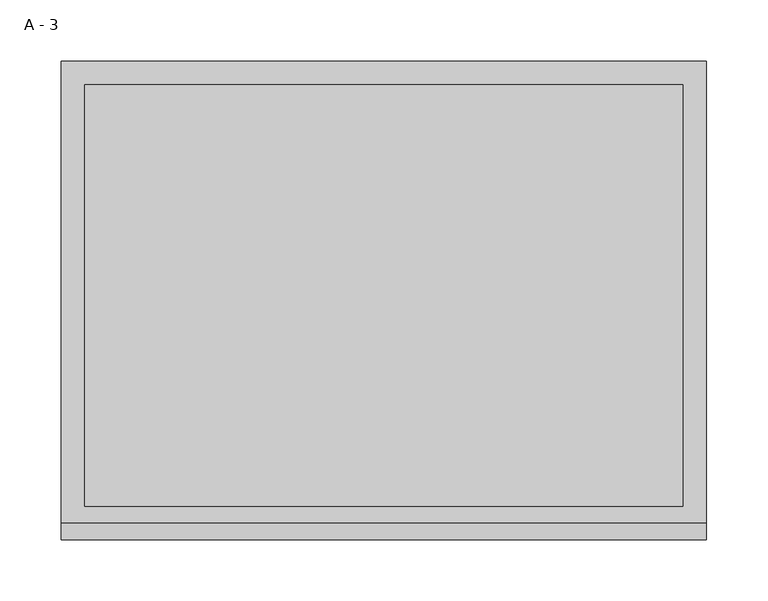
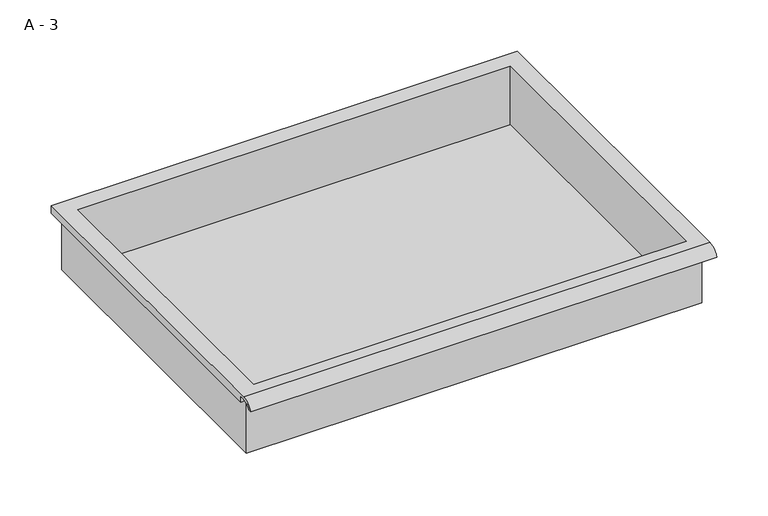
"""IFC4 building model written with IfcOpenShell, lengths in millimetres: furniture geometry, HermanMiller_CoStruc_CO207_Drawer : A - 3."""

from ifc_helpers import new_model, si_unit, frame, origin, place, context, project, spatial, polyline, circle_curve, source, transform, mapped, element, save
from ifc_brep_helpers import plane_surface, cylinder_surface, revolved_surface, advanced_brep


def a_3_f6285bb9(model_context):
    return source(origin(), model_context, "Body", "AdvancedBrep", [
        advanced_brep(
        [(-257.1076517, -176.2125, 1149.35), (257.2423483, -176.2125, 1149.35), (257.2423483, -176.2125, 1212.85), (263.5923483, -176.2125, 1212.85), (263.5923483, -176.2125, 1219.1571341), (-263.4576517, -176.2125, 1219.1571341), (-263.4576517, -176.2125, 1212.85), (-257.1076517, -176.2125, 1212.85), (257.2423483, 185.7375, 1149.35), (-257.1076517, 185.7375, 1149.35), (-257.1076517, 185.7375, 1212.85), (257.2423483, 185.7375, 1212.85), (263.5923483, -181.6070544, 1222.375), (263.5923483, 195.2625, 1222.375), (-263.4576517, 195.2625, 1222.375), (-263.4576517, -181.6070544, 1222.375), (244.5423483, -168.275, 1222.375), (-244.4076517, -168.275, 1222.375), (-244.4076517, 176.2125, 1222.375), (244.5423483, 176.2125, 1222.375), (263.5923483, -195.2625, 1212.85), (263.5923483, -191.8280601, 1212.85), (263.5923483, -180.4714815, 1219.1571341), (263.5923483, 195.2625, 1212.85), (-263.4576517, 195.2625, 1212.85), (-263.4576517, -180.4714815, 1219.1571341), (-263.4576517, -191.8280601, 1212.85), (-263.4576517, -195.2625, 1212.85), (-244.4076517, -168.275, 1152.3761719), (244.5423483, -168.275, 1152.3761719), (244.5423483, 176.2125, 1152.3761719), (-244.4076517, 176.2125, 1152.3761719)],
        [
            (0, 1),
            (1, 2),
            (2, 3),
            (3, 4),
            (4, 5),
            (5, 6),
            (6, 7),
            (7, 0),
            (8, 9),
            (9, 10),
            (10, 11),
            (11, 8),
            (0, 9),
            (8, 1),
            (11, 2),
            (12, 13),
            (13, 14),
            (14, 15),
            (15, 12),
            (16, 17),
            (17, 18),
            (18, 19),
            (19, 16),
            (7, 10),
            (12, 20, circle_curve(frame((263.5923483, -181.6070544, 1207.8239859), z_axis=(1.0, 0.0, 0.0), x_axis=(0.0, 1.0, 0.0)), 14.5510141)),
            (20, 21),
            (21, 22, circle_curve(frame((263.5923483, -181.6070544, 1207.8239859), z_axis=(-1.0, 0.0, 0.0), x_axis=(0.0, 1.0, 0.0)), 11.3898979)),
            (22, 4),
            (3, 23),
            (23, 13),
            (14, 24),
            (24, 6),
            (5, 25),
            (25, 26, circle_curve(frame((-263.4576517, -181.6070544, 1207.8239859), z_axis=(1.0, 0.0, 0.0), x_axis=(0.0, 1.0, 0.0)), 11.3898979)),
            (26, 27),
            (27, 15, circle_curve(frame((-263.4576517, -181.6070544, 1207.8239859), z_axis=(-1.0, 0.0, 0.0), x_axis=(0.0, 1.0, 0.0)), 14.5510141)),
            (27, 20),
            (26, 21),
            (25, 22),
            (24, 23),
            (28, 29),
            (29, 30),
            (30, 31),
            (31, 28),
            (28, 17),
            (16, 29),
            (19, 30),
            (18, 31),
        ],
        [
            plane_surface(frame((257.2423483, -176.2125, 1149.35), z_axis=(0.0, -1.0, 0.0), x_axis=(1.0, 0.0, 0.0))),
            plane_surface(frame((257.2423483, 185.7375, 1149.35), z_axis=(0.0, 1.0, 0.0), x_axis=(-1.0, 0.0, 0.0))),
            plane_surface(frame((-257.1076517, -176.2125, 1149.35), z_axis=(0.0, 0.0, -1.0), x_axis=(0.0, 1.0, 0.0))),
            plane_surface(frame((257.2423483, -176.2125, 1149.35), z_axis=(1.0, 0.0, 0.0), x_axis=(0.0, 1.0, 0.0))),
            plane_surface(frame((257.2423483, -176.2125, 1222.375), z_axis=(0.0, 0.0, 1.0), x_axis=(0.0, 1.0, 0.0))),
            plane_surface(frame((-257.1076517, -176.2125, 1222.375), z_axis=(-1.0, 0.0, 0.0), x_axis=(0.0, 1.0, 0.0))),
            plane_surface(frame((263.5923483, 195.2625, 1222.375), z_axis=(1.0, 0.0, 0.0), x_axis=(0.0, -1.0, 0.0))),
            plane_surface(frame((-263.4576517, 195.2625, 1222.375), z_axis=(-1.0, 0.0, 0.0), x_axis=(0.0, 1.0, 0.0))),
            cylinder_surface(frame((-263.4576517, -181.6070544, 1207.8239859), z_axis=(1.0, 0.0, 0.0), x_axis=(0.0, 1.0, 0.0)), 14.5510141),
            plane_surface(frame((263.5923483, -195.2625, 1212.85), z_axis=(0.0, -7.212409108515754e-12, -1.0), x_axis=(-1.0, 0.0, 0.0))),
            revolved_surface(polyline([(-263.4576517, -170.21715650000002, 1207.8239859), (263.59234829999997, -170.21715650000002, 1207.8239859)]), (-263.4576517, -181.6070544, 1207.8239859), (-1.0, 0.0, 0.0)),
            plane_surface(frame((263.5923483, -180.4714815, 1219.1571341), z_axis=(0.0, -1.792497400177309e-11, -1.0), x_axis=(-1.0, 0.0, 0.0))),
            plane_surface(frame((263.5923483, -176.2125, 1212.85), z_axis=(0.0, 0.0, -1.0), x_axis=(-1.0, 0.0, 0.0))),
            plane_surface(frame((263.5923483, 195.2625, 1212.85), z_axis=(0.0, 1.0, 0.0), x_axis=(-1.0, 0.0, 0.0))),
            plane_surface(frame((244.5423483, -168.275, 1152.3761719), z_axis=(0.0, 0.0, 1.0), x_axis=(-1.0, 0.0, 0.0))),
            plane_surface(frame((-244.4076517, -168.275, 1222.375), z_axis=(0.0, 1.0, 0.0), x_axis=(0.0, 0.0, -1.0))),
            plane_surface(frame((244.5423483, -168.275, 1222.375), z_axis=(-1.0, 0.0, 0.0), x_axis=(0.0, 0.0, -1.0))),
            plane_surface(frame((244.5423483, 176.2125, 1222.375), z_axis=(0.0, -1.0, 0.0), x_axis=(0.0, 0.0, -1.0))),
            plane_surface(frame((-244.4076517, 176.2125, 1222.375), z_axis=(1.0, 0.0, 0.0), x_axis=(0.0, 0.0, -1.0))),
        ],
        [
            (0, [[1, 2, 3, 4, 5, 6, 7, 8]]),
            (1, [[9, 10, 11, 12]]),
            (2, [[-1, 13, -9, 14]]),
            (3, [[-14, -12, 15, -2]]),
            (4, [[16, 17, 18, 19], [20, 21, 22, 23]]),
            (5, [[-13, -8, 24, -10]]),
            (6, [[-16, 25, 26, 27, 28, -4, 29, 30]]),
            (7, [[31, 32, -6, 33, 34, 35, 36, -18]]),
            (8, [[-25, -19, -36, 37]]),
            (9, [[-26, -37, -35, 38]]),
            (10, [[-27, -38, -34, 39]]),
            (11, [[-28, -39, -33, -5]]),
            (12, [[-29, -3, -15, -11, -24, -7, -32, 40]]),
            (13, [[-30, -40, -31, -17]]),
            (14, [[41, 42, 43, 44]]),
            (15, [[-41, 45, -20, 46]]),
            (16, [[-42, -46, -23, 47]]),
            (17, [[-43, -47, -22, 48]]),
            (18, [[-44, -48, -21, -45]]),
        ],
    ),
    ])


if __name__ == "__main__":
    model = new_model("IFC4")
    model_context = context("Model", 3, world=origin())
    ifc_project = project(units=[si_unit("LENGTHUNIT", "METRE", prefix="MILLI")], contexts=[model_context])
    site = spatial("IfcSite", under=ifc_project)
    building = spatial("IfcBuilding", under=site)
    placement = place(None, origin())
    a_3_shape = a_3_f6285bb9(model_context)
    element("IfcFurniture", 1, ObjectType="HermanMiller_CoStruc_CO207_Drawer : A - 3", at=placement, inside=building, context=model_context, shape_type="MappedRepresentation", body=[
        mapped(a_3_shape, transform((0.0, 0.0, 0.0), x_axis=(1.0, 0.0, 0.0), y_axis=(0.0, 1.0, 0.0), z_axis=(0.0, 0.0, 1.0))),
    ])
    save(model, "model.ifc")
